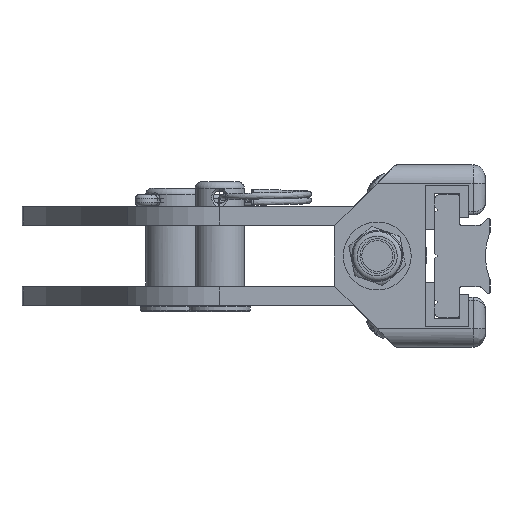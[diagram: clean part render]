
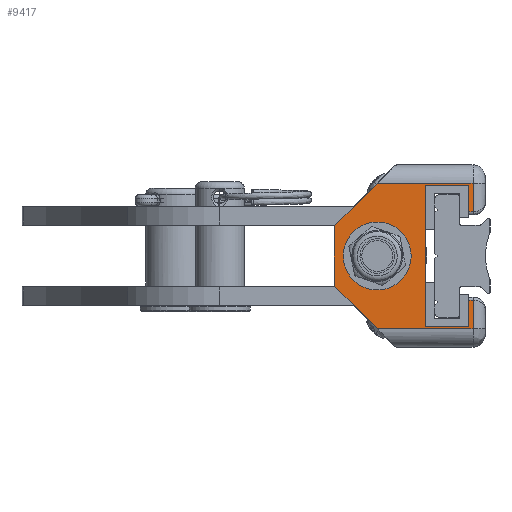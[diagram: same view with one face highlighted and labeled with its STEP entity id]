
A CAD part, left-side view. The second image highlights one B-rep face of the part: STEP entity #9417.
In plain terms, the highlighted planar face has unit normal (-1, 0, 0).
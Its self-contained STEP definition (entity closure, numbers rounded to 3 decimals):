
#374=FACE_BOUND('',#2938,.T.);
#822=LINE('',#18292,#1488);
#825=LINE('',#18335,#1491);
#828=LINE('',#18343,#1494);
#829=LINE('',#18345,#1495);
#830=LINE('',#18347,#1496);
#831=LINE('',#18351,#1497);
#832=LINE('',#18355,#1498);
#833=LINE('',#18357,#1499);
#834=LINE('',#18359,#1500);
#835=LINE('',#18361,#1501);
#836=LINE('',#18363,#1502);
#837=LINE('',#18367,#1503);
#838=LINE('',#18371,#1504);
#839=LINE('',#18375,#1505);
#1488=VECTOR('',#12639,10.);
#1491=VECTOR('',#12654,10.);
#1494=VECTOR('',#12661,10.);
#1495=VECTOR('',#12662,10.);
#1496=VECTOR('',#12663,10.);
#1497=VECTOR('',#12666,10.);
#1498=VECTOR('',#12669,10.);
#1499=VECTOR('',#12670,10.);
#1500=VECTOR('',#12671,10.);
#1501=VECTOR('',#12672,10.);
#1502=VECTOR('',#12673,10.);
#1503=VECTOR('',#12676,10.);
#1504=VECTOR('',#12679,10.);
#1505=VECTOR('',#12682,10.);
#2341=FACE_OUTER_BOUND('',#2937,.T.);
#2937=EDGE_LOOP('',(#7766,#7767,#7768,#7769,#7770,#7771,#7772,#7773,#7774,
#7775,#7776,#7777,#7778,#7779,#7780,#7781,#7782,#7783,#7784,#7785));
#2938=EDGE_LOOP('',(#7786));
#3555=CIRCLE('',#10413,1.);
#3556=CIRCLE('',#10414,1.);
#3557=CIRCLE('',#10415,0.5);
#3558=CIRCLE('',#10416,0.5);
#3559=CIRCLE('',#10417,0.5);
#3560=CIRCLE('',#10418,0.5);
#3561=CIRCLE('',#10419,5.05);
#4267=VERTEX_POINT('',#18289);
#4268=VERTEX_POINT('',#18291);
#4272=VERTEX_POINT('',#18334);
#4275=VERTEX_POINT('',#18342);
#4276=VERTEX_POINT('',#18344);
#4277=VERTEX_POINT('',#18346);
#4278=VERTEX_POINT('',#18348);
#4279=VERTEX_POINT('',#18350);
#4280=VERTEX_POINT('',#18352);
#4281=VERTEX_POINT('',#18354);
#4282=VERTEX_POINT('',#18356);
#4283=VERTEX_POINT('',#18358);
#4284=VERTEX_POINT('',#18360);
#4285=VERTEX_POINT('',#18362);
#4286=VERTEX_POINT('',#18364);
#4287=VERTEX_POINT('',#18366);
#4288=VERTEX_POINT('',#18368);
#4289=VERTEX_POINT('',#18370);
#4290=VERTEX_POINT('',#18372);
#4291=VERTEX_POINT('',#18374);
#4292=VERTEX_POINT('',#18377);
#5486=EDGE_CURVE('',#4267,#4268,#822,.T.);
#5493=EDGE_CURVE('',#4272,#4268,#825,.T.);
#5497=EDGE_CURVE('',#4275,#4267,#828,.T.);
#5498=EDGE_CURVE('',#4276,#4275,#829,.T.);
#5499=EDGE_CURVE('',#4276,#4277,#830,.T.);
#5500=EDGE_CURVE('',#4277,#4278,#3555,.T.);
#5501=EDGE_CURVE('',#4278,#4279,#831,.T.);
#5502=EDGE_CURVE('',#4279,#4280,#3556,.T.);
#5503=EDGE_CURVE('',#4280,#4281,#832,.T.);
#5504=EDGE_CURVE('',#4282,#4281,#833,.T.);
#5505=EDGE_CURVE('',#4283,#4282,#834,.T.);
#5506=EDGE_CURVE('',#4284,#4283,#835,.T.);
#5507=EDGE_CURVE('',#4284,#4285,#836,.T.);
#5508=EDGE_CURVE('',#4285,#4286,#3557,.T.);
#5509=EDGE_CURVE('',#4286,#4287,#837,.T.);
#5510=EDGE_CURVE('',#4287,#4288,#3558,.T.);
#5511=EDGE_CURVE('',#4288,#4289,#838,.T.);
#5512=EDGE_CURVE('',#4289,#4290,#3559,.T.);
#5513=EDGE_CURVE('',#4290,#4291,#839,.T.);
#5514=EDGE_CURVE('',#4291,#4272,#3560,.T.);
#5515=EDGE_CURVE('',#4292,#4292,#3561,.T.);
#7766=ORIENTED_EDGE('',*,*,#5486,.F.);
#7767=ORIENTED_EDGE('',*,*,#5497,.F.);
#7768=ORIENTED_EDGE('',*,*,#5498,.F.);
#7769=ORIENTED_EDGE('',*,*,#5499,.T.);
#7770=ORIENTED_EDGE('',*,*,#5500,.T.);
#7771=ORIENTED_EDGE('',*,*,#5501,.T.);
#7772=ORIENTED_EDGE('',*,*,#5502,.T.);
#7773=ORIENTED_EDGE('',*,*,#5503,.T.);
#7774=ORIENTED_EDGE('',*,*,#5504,.F.);
#7775=ORIENTED_EDGE('',*,*,#5505,.F.);
#7776=ORIENTED_EDGE('',*,*,#5506,.F.);
#7777=ORIENTED_EDGE('',*,*,#5507,.T.);
#7778=ORIENTED_EDGE('',*,*,#5508,.T.);
#7779=ORIENTED_EDGE('',*,*,#5509,.T.);
#7780=ORIENTED_EDGE('',*,*,#5510,.T.);
#7781=ORIENTED_EDGE('',*,*,#5511,.T.);
#7782=ORIENTED_EDGE('',*,*,#5512,.T.);
#7783=ORIENTED_EDGE('',*,*,#5513,.T.);
#7784=ORIENTED_EDGE('',*,*,#5514,.T.);
#7785=ORIENTED_EDGE('',*,*,#5493,.T.);
#7786=ORIENTED_EDGE('',*,*,#5515,.T.);
#8988=PLANE('',#10412);
#9417=ADVANCED_FACE('',(#2341,#374),#8988,.F.);
#10412=AXIS2_PLACEMENT_3D('',#18341,#12659,#12660);
#10413=AXIS2_PLACEMENT_3D('',#18349,#12664,#12665);
#10414=AXIS2_PLACEMENT_3D('',#18353,#12667,#12668);
#10415=AXIS2_PLACEMENT_3D('',#18365,#12674,#12675);
#10416=AXIS2_PLACEMENT_3D('',#18369,#12677,#12678);
#10417=AXIS2_PLACEMENT_3D('',#18373,#12680,#12681);
#10418=AXIS2_PLACEMENT_3D('',#18376,#12683,#12684);
#10419=AXIS2_PLACEMENT_3D('',#18378,#12685,#12686);
#12639=DIRECTION('',(0.,1.,0.));
#12654=DIRECTION('',(0.,0.,-1.));
#12659=DIRECTION('center_axis',(1.,0.,0.));
#12660=DIRECTION('ref_axis',(0.,1.,0.));
#12661=DIRECTION('',(0.,0.,-1.));
#12662=DIRECTION('',(0.,-1.,0.));
#12663=DIRECTION('',(0.,0.707,-0.707));
#12664=DIRECTION('center_axis',(-1.,0.,0.));
#12665=DIRECTION('ref_axis',(0.,1.,0.));
#12666=DIRECTION('',(0.,0.,-1.));
#12667=DIRECTION('center_axis',(-1.,0.,0.));
#12668=DIRECTION('ref_axis',(0.,0.707,-0.707));
#12669=DIRECTION('',(0.,-0.707,-0.707));
#12670=DIRECTION('',(0.,1.,0.));
#12671=DIRECTION('',(0.,0.,-1.));
#12672=DIRECTION('',(0.,-1.,0.));
#12673=DIRECTION('',(0.,0.,-1.));
#12674=DIRECTION('center_axis',(1.,0.,0.));
#12675=DIRECTION('ref_axis',(0.,1.,0.));
#12676=DIRECTION('',(0.,1.,0.));
#12677=DIRECTION('center_axis',(1.,0.,0.));
#12678=DIRECTION('ref_axis',(0.,0.,
-1.));
#12679=DIRECTION('',(0.,0.,1.));
#12680=DIRECTION('center_axis',(1.,0.,0.));
#12681=DIRECTION('ref_axis',(0.,1.,0.));
#12682=DIRECTION('',(0.,-1.,0.));
#12683=DIRECTION('center_axis',(1.,0.,0.));
#12684=DIRECTION('ref_axis',(0.,0.,
-1.));
#12685=DIRECTION('center_axis',(1.,0.,0.));
#12686=DIRECTION('ref_axis',(0.,0.,
-1.));
#18289=CARTESIAN_POINT('',(-140.,-8.5,14.3));
#18291=CARTESIAN_POINT('',(-140.,-7.2,14.3));
#18292=CARTESIAN_POINT('',(-140.,1.75,14.3));
#18334=CARTESIAN_POINT('',(-140.,-7.2,22.35));
#18335=CARTESIAN_POINT('',(-140.,-7.2,13.8));
#18341=CARTESIAN_POINT('Origin',(-140.,12.,0.));
#18342=CARTESIAN_POINT('',(-140.,-8.5,23.5));
#18343=CARTESIAN_POINT('',(-140.,-8.5,12.75));
#18344=CARTESIAN_POINT('',(-140.,22.5,23.5));
#18345=CARTESIAN_POINT('',(-140.,14.043,23.5));
#18346=CARTESIAN_POINT('',(-140.,36.207,9.793));
#18347=CARTESIAN_POINT('',(-140.,36.207,9.793));
#18348=CARTESIAN_POINT('',(-140.,36.5,9.086));
#18349=CARTESIAN_POINT('Origin',(-140.,35.5,9.086));
#18350=CARTESIAN_POINT('',(-140.,36.5,-9.086));
#18351=CARTESIAN_POINT('',(-140.,36.5,-9.086));
#18352=CARTESIAN_POINT('',(-140.,36.207,-9.793));
#18353=CARTESIAN_POINT('Origin',(-140.,35.5,-9.086));
#18354=CARTESIAN_POINT('',(-140.,22.5,-23.5));
#18355=CARTESIAN_POINT('',(-140.,16.793,-29.207));
#18356=CARTESIAN_POINT('',(-140.,-8.5,-23.5));
#18357=CARTESIAN_POINT('',(-140.,1.75,-23.5));
#18358=CARTESIAN_POINT('',(-140.,-8.5,-14.3));
#18359=CARTESIAN_POINT('',(-140.,-8.5,-8.65));
#18360=CARTESIAN_POINT('',(-140.,-7.2,-14.3));
#18361=CARTESIAN_POINT('',(-140.,2.15,-14.3));
#18362=CARTESIAN_POINT('',(-140.,-7.2,-22.35));
#18363=CARTESIAN_POINT('',(-140.,-7.2,-22.35));
#18364=CARTESIAN_POINT('',(-140.,-6.7,-22.85));
#18365=CARTESIAN_POINT('Origin',(-140.,-6.7,-22.35));
#18366=CARTESIAN_POINT('',(-140.,6.5,-22.85));
#18367=CARTESIAN_POINT('',(-140.,6.,-22.85));
#18368=CARTESIAN_POINT('',(-140.,7.,-22.35));
#18369=CARTESIAN_POINT('Origin',(-140.,6.5,-22.35));
#18370=CARTESIAN_POINT('',(-140.,7.,22.35));
#18371=CARTESIAN_POINT('',(-140.,7.,11.175));
#18372=CARTESIAN_POINT('',(-140.,6.5,22.85));
#18373=CARTESIAN_POINT('Origin',(-140.,6.5,22.35));
#18374=CARTESIAN_POINT('',(-140.,-6.7,22.85));
#18375=CARTESIAN_POINT('',(-140.,-6.7,22.85));
#18376=CARTESIAN_POINT('Origin',(-140.,-6.7,22.35));
#18377=CARTESIAN_POINT('',(-140.,22.5,5.05));
#18378=CARTESIAN_POINT('Origin',(-140.,22.5,0.));
